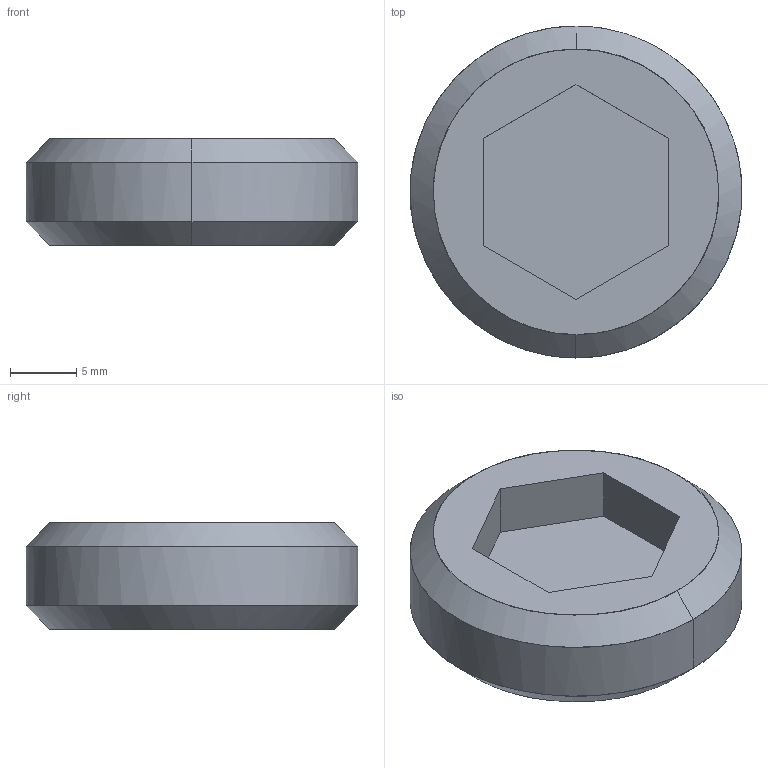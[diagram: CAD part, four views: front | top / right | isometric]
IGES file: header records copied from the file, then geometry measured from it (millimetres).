
Global section: file name: E:\UnigraphicsGraphicData\MISUMI_PRESS-PARTS\IGES\3d_msws25-8_00525_r00.igs; native system: NX V5.0; preprocessor: UGS NX IGES V5.0; author: MISUMI; date: 20110105.161525; units: millimetre
Bounding box: 24.98 x 25 x 8 mm (x, y, z)
Surface area: 1637.5 mm2 (no closed solid volume)
Topology: 0 solids, 0 shells, 15 faces, 76 edges, 76 vertices
Faces by surface type: bspline 15
